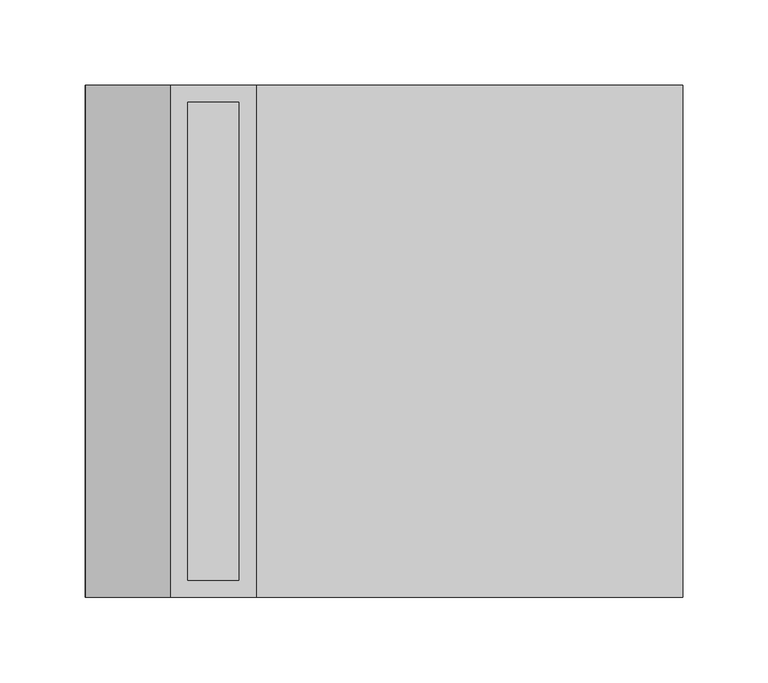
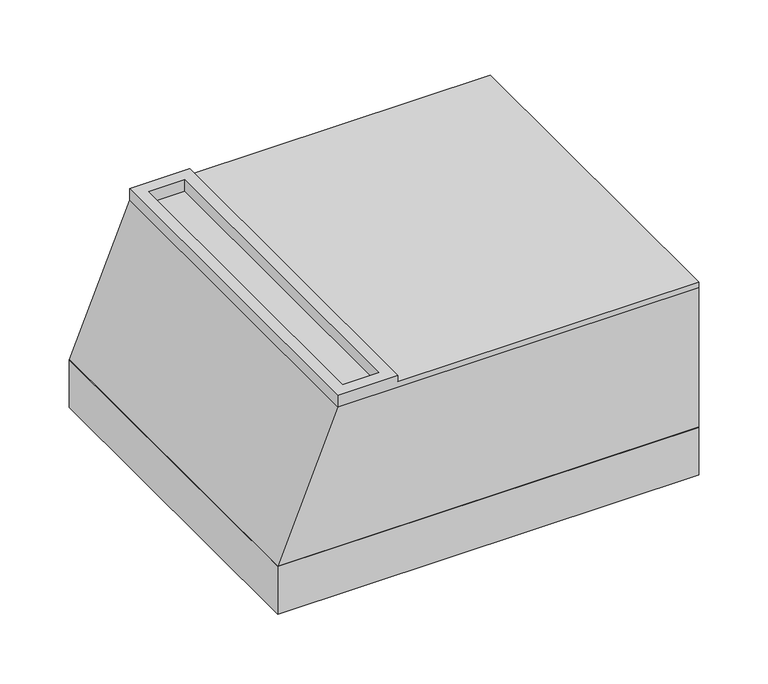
"""IFC4 building model written with IfcOpenShell, lengths in millimetres: cable carrier fitting geometry, BAKS_Universal elbow : KRUMJ_H42."""

import ifcopenshell
import ifcopenshell.guid

model = None  # the IFC model being written
_history = None  # IfcOwnerHistory: only IFC2X3 demands one
_inside = {}  # id of a spatial element -> (the spatial element, [elements in it])
_under = {}  # id of a project, library or spatial element -> (it, [spatial elements below it])
_declared = {}  # id of a project -> (the project, [libraries it declares])
_typed = {}  # id of a type object -> (the type object, [elements of that type])
_made_of = {}  # id of a material, layer set ... -> (it, [elements and type objects made of it])


def new_model(schema):
    """Start an empty IFC model of exactly this schema.

    Asked for "IFC4X3", IfcOpenShell would pick the latest addendum, in which some entities
    have other attributes; the version numbers below select the first issue.
    IFC2X3 requires an IfcOwnerHistory on every rooted entity: one is made here for all.
    """
    global model, _history
    if schema == "IFC4X3":
        model = ifcopenshell.file(schema_version=(4, 3, 0, 0))
    else:
        model = ifcopenshell.file(schema=schema)
    _inside.clear()
    _under.clear()
    _declared.clear()
    _typed.clear()
    _made_of.clear()
    _history = None
    if model.schema == "IFC2X3":
        org = make("IfcOrganization", Name="unknown")
        user = make(
            "IfcPersonAndOrganization",
            ThePerson=make("IfcPerson", FamilyName="unknown"),
            TheOrganization=org,
        )
        app = make(
            "IfcApplication",
            ApplicationDeveloper=org,
            Version="unknown",
            ApplicationFullName="unknown",
            ApplicationIdentifier="unknown",
        )
        _history = make(
            "IfcOwnerHistory",
            OwningUser=user,
            OwningApplication=app,
            ChangeAction="ADDED",
            CreationDate=0,
        )
    return model


def make(cls, **values):
    """One entity of the class cls with the attributes given. An attribute that is None is left unset."""
    return model.create_entity(
        cls, **{name: value for name, value in values.items() if value is not None}
    )


def rooted(cls, **values):
    """An entity with a GlobalId (a new one), such as an element, a storey or a relation."""
    return make(cls, GlobalId=ifcopenshell.guid.new(), OwnerHistory=_history, **values)


def si_unit(unit_type, name, prefix=None):
    """IfcSIUnit, for example si_unit("LENGTHUNIT", "METRE", prefix="MILLI")."""
    return make("IfcSIUnit", UnitType=unit_type, Prefix=prefix, Name=name)


def assignment(units):
    """IfcUnitAssignment: the units of a project."""
    return None if units is None else make("IfcUnitAssignment", Units=units)


def point(xyz):
    """IfcCartesianPoint."""
    return None if xyz is None else make("IfcCartesianPoint", Coordinates=xyz)


def direction(xyz):
    """IfcDirection."""
    return None if xyz is None else make("IfcDirection", DirectionRatios=xyz)


def frame(location, z_axis=None, x_axis=None):
    """IfcAxis2Placement3D, a coordinate frame: its origin and axes. An axis left out is left unset."""
    return make(
        "IfcAxis2Placement3D",
        Location=point(location),
        Axis=direction(z_axis),
        RefDirection=direction(x_axis),
    )


def origin():
    """The frame at (0, 0, 0) with its axes left unset."""
    return frame((0.0, 0.0, 0.0))


def place(relative_to, where):
    """IfcLocalPlacement: puts the frame where relative to a parent placement (None: the world)."""
    return make(
        "IfcLocalPlacement", PlacementRelTo=relative_to, RelativePlacement=where
    )


def context(
    kind, dimensions, precision=None, world=None, true_north=None, identifier=None
):
    """IfcGeometricRepresentationContext, for example the 3D "Model" context."""
    return make(
        "IfcGeometricRepresentationContext",
        ContextIdentifier=identifier,
        ContextType=kind,
        CoordinateSpaceDimension=dimensions,
        Precision=precision,
        WorldCoordinateSystem=world,
        TrueNorth=true_north,
    )


def project(units=None, contexts=None):
    """IfcProject with its units and contexts."""
    return rooted(
        "IfcProject",
        Name="project",
        RepresentationContexts=contexts,
        UnitsInContext=assignment(units),
    )


def spatial(cls, under=None, at=None, **own):
    """A site, building, storey or space (cls), placed at a placement, below another one or the project."""
    s = rooted(cls, ObjectPlacement=at, **own)
    if under is not None:
        _under.setdefault(under.id(), (under, []))[1].append(s)
    return s


def polyline(points):
    """IfcPolyline through the points."""
    return make("IfcPolyline", Points=[point(p) for p in points])


def outline(outer, holes=None, kind="AREA"):
    """IfcArbitraryClosedProfileDef: a profile drawn as a closed curve; with holes, ...WithVoids."""
    if holes is None:
        return make("IfcArbitraryClosedProfileDef", ProfileType=kind, OuterCurve=outer)
    return make(
        "IfcArbitraryProfileDefWithVoids",
        ProfileType=kind,
        OuterCurve=outer,
        InnerCurves=holes,
    )


def extrude(swept, where, along, depth):
    """IfcExtrudedAreaSolid: the profile swept, set in the frame where, extruded along a direction by depth."""
    return make(
        "IfcExtrudedAreaSolid",
        SweptArea=swept,
        Position=where,
        ExtrudedDirection=direction(along),
        Depth=depth,
    )


def faces_of(points, faces, orient=None, outer=None):
    """IfcFace entities. A face is a list of loops; a loop is a list of indices into points, from 0.

    orient and outer hold one flag for each loop. By default every Orientation is true, the
    first loop of a face is its IfcFaceOuterBound and the others are IfcFaceBound.
    """
    made = []
    for i, loops in enumerate(faces):
        bounds = []
        for j, loop in enumerate(loops):
            is_outer = j == 0 if outer is None else outer[i][j]
            bounds.append(
                make(
                    "IfcFaceOuterBound" if is_outer else "IfcFaceBound",
                    Bound=make("IfcPolyLoop", Polygon=[points[k] for k in loop]),
                    Orientation=True if orient is None else orient[i][j],
                )
            )
        made.append(make("IfcFace", Bounds=bounds))
    return made


def faceted_brep(points, faces, orient=None, outer=None, voids=None):
    """IfcFacetedBrep: a solid bounded by flat faces; with voids (closed shells), ...WithVoids."""
    shared = [point(p) for p in points]
    hull = make("IfcClosedShell", CfsFaces=faces_of(shared, faces, orient, outer))
    if voids is None:
        return make("IfcFacetedBrep", Outer=hull)
    return make(
        "IfcFacetedBrepWithVoids",
        Outer=hull,
        Voids=[
            make(cls, CfsFaces=faces_of(shared, fs, o, b)) for cls, fs, o, b in voids
        ],
    )


def shape(context_of_items, identifier, shape_type, items):
    """IfcShapeRepresentation: the items that make up one representation, for example the "Body"."""
    return make(
        "IfcShapeRepresentation",
        ContextOfItems=context_of_items,
        RepresentationIdentifier=identifier,
        RepresentationType=shape_type,
        Items=items,
    )


def source(mapping_origin, context_of_items, identifier, shape_type, items):
    """IfcRepresentationMap: a shape defined once, which mapped items show again and again."""
    return make(
        "IfcRepresentationMap",
        MappingOrigin=mapping_origin,
        MappedRepresentation=shape(context_of_items, identifier, shape_type, items),
    )


def transform(
    local_origin,
    x_axis=None,
    y_axis=None,
    z_axis=None,
    scale=None,
    scale2=None,
    scale3=None,
    uniform=True,
):
    """IfcCartesianTransformationOperator3D, or its non-uniform kind. x_axis, y_axis, z_axis: its Axis1, 2, 3."""
    if uniform:
        return make(
            "IfcCartesianTransformationOperator3D",
            Axis1=direction(x_axis),
            Axis2=direction(y_axis),
            LocalOrigin=point(local_origin),
            Scale=scale,
            Axis3=direction(z_axis),
        )
    return make(
        "IfcCartesianTransformationOperator3DnonUniform",
        Axis1=direction(x_axis),
        Axis2=direction(y_axis),
        LocalOrigin=point(local_origin),
        Scale=scale,
        Axis3=direction(z_axis),
        Scale2=scale2,
        Scale3=scale3,
    )


def mapped(mapping_source, mapping_target):
    """IfcMappedItem: shows the shape of a source again, moved by a transform."""
    return make(
        "IfcMappedItem", MappingSource=mapping_source, MappingTarget=mapping_target
    )


def made_of(thing, what):
    """Note that an element or type object is made of a material, layer set ...; save() writes the relation."""
    if what is not None:
        _made_of.setdefault(what.id(), (what, []))[1].append(thing)
    return thing


def element(
    cls,
    number,
    at=None,
    inside=None,
    cuts=None,
    type_object=None,
    material=None,
    context=None,
    identifier="Body",
    shape_type=None,
    held_by="IfcProductDefinitionShape",
    body=None,
    shapes=None,
    **own,
):
    """One element of the class cls, such as IfcWall. Its Tag is "e" and its number.

    at: its placement. inside: the storey or other place that contains it. cuts: it is an
    opening in that element (IfcRelVoidsElement). A single representation is given by context,
    identifier, shape_type and body (its items); several are given by shapes. held_by: the class
    of the entity that holds the representations. save() writes the other relations.
    """
    e = rooted(cls, Tag="e%d" % number, ObjectPlacement=at, **own)
    if body is not None:
        shapes = [shape(context, identifier, shape_type, body)]
    if shapes is not None:
        e.Representation = make(held_by, Representations=shapes)
    if inside is not None:
        _inside.setdefault(inside.id(), (inside, []))[1].append(e)
    if cuts is not None:
        rooted(
            "IfcRelVoidsElement", RelatingBuildingElement=cuts, RelatedOpeningElement=e
        )
    if type_object is not None:
        _typed.setdefault(type_object.id(), (type_object, []))[1].append(e)
    return made_of(e, material)


def aggregate(whole, parts):
    """IfcRelAggregates: a whole, such as a stair, and the parts it consists of."""
    return rooted("IfcRelAggregates", RelatingObject=whole, RelatedObjects=parts)


def save(model, path):
    """Write the relations noted so far, then the file.

    IfcRelAggregates (storeys below a building ...), IfcRelContainedInSpatialStructure (elements
    in a storey), IfcRelDefinesByType, IfcRelAssociatesMaterial and IfcRelDeclares: one each for
    every whole, place, type object, material and project.
    """
    for whole, parts in _under.values():
        aggregate(whole, parts)
    for where, things in _inside.values():
        rooted(
            "IfcRelContainedInSpatialStructure",
            RelatedElements=things,
            RelatingStructure=where,
        )
    for kind, things in _typed.values():
        rooted("IfcRelDefinesByType", RelatedObjects=things, RelatingType=kind)
    for what, things in _made_of.values():
        rooted("IfcRelAssociatesMaterial", RelatedObjects=things, RelatingMaterial=what)
    for by, libraries in _declared.values():
        rooted("IfcRelDeclares", RelatingContext=by, RelatedDefinitions=libraries)
    model.write(path)


def cable_carrier_fitting_df0feb0d(model_context):
    return source(origin(), model_context, "Body", "SolidModel", [
        faceted_brep([(350.0, -150.0, 149.0), (350.0, 150.0, 149.0), (100.0, 150.0, 149.0), (100.0, -150.0, 149.0), (350.0, -150.0, 144.0), (50.0, -150.0, 144.0), (50.0, 150.0, 144.0), (350.0, 150.0, 144.0), (90.0, -140.0, 144.0), (90.0, 140.0, 144.0), (60.0, 140.0, 144.0), (60.0, -140.0, 144.0), (50.0, 150.0, 154.0), (100.0, 150.0, 154.0), (50.0, -150.0, 154.0), (100.0, -150.0, 154.0), (90.0, 140.0, 154.0), (90.0, -140.0, 154.0), (60.0, -140.0, 154.0), (60.0, 140.0, 154.0)], [[[0, 1, 2, 3]], [[4, 5, 6, 7], [8, 9, 10, 11]], [[1, 0, 4, 7]], [[7, 6, 12, 13, 2, 1]], [[6, 5, 14, 12]], [[5, 4, 0, 3, 15, 14]], [[15, 13, 12, 14], [16, 17, 18, 19]], [[13, 15, 3, 2]], [[16, 9, 8, 17]], [[9, 16, 19, 10]], [[10, 19, 18, 11]], [[17, 8, 11, 18]]]),
        extrude(outline(polyline([(350.0, 150.0), (350.0, -150.0), (0.0, -150.0), (0.0, 150.0), (350.0, 150.0)])), frame((0.0, 0.0, -21.0), z_axis=(0.0, 0.0, 1.0), x_axis=(1.0, 0.0, 0.0)), (0.0, 0.0, 1.0), 42.0),
        extrude(outline(polyline([(21.0, 0.0), (21.0, 350.0), (144.0, 350.0), (144.0, 50.0), (21.0, 0.0)])), frame((0.0, -150.0, 0.0), z_axis=(0.0, 1.0, 0.0), x_axis=(0.0, 0.0, 1.0)), (0.0, 0.0, 1.0), 300.0),
    ])


if __name__ == "__main__":
    model = new_model("IFC4")
    model_context = context("Model", 3, world=origin())
    ifc_project = project(units=[si_unit("LENGTHUNIT", "METRE", prefix="MILLI")], contexts=[model_context])
    site = spatial("IfcSite", under=ifc_project)
    building = spatial("IfcBuilding", under=site)
    placement = place(None, origin())
    cable_carrier_fitting_shape = cable_carrier_fitting_df0feb0d(model_context)
    element("IfcCableCarrierFitting", 1, ObjectType="BAKS_Universal elbow : KRUMJ_H42", at=placement, inside=building, context=model_context, shape_type="MappedRepresentation", body=[
        mapped(cable_carrier_fitting_shape, transform((0.0, 0.0, 0.0), x_axis=(1.0, 0.0, 0.0), y_axis=(0.0, 1.0, 0.0), z_axis=(0.0, 0.0, 1.0))),
    ])
    save(model, "model.ifc")
